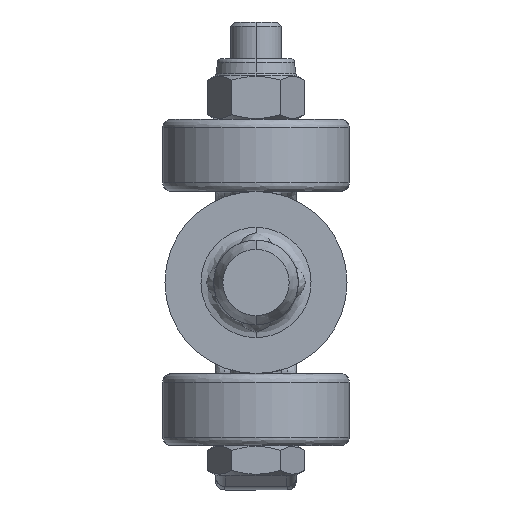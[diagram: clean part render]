
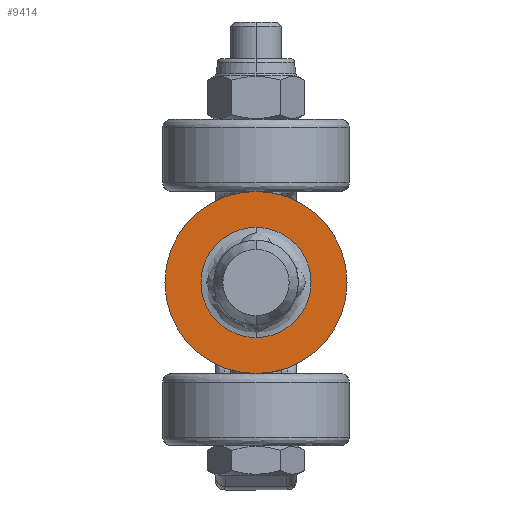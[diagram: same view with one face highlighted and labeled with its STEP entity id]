
A CAD part, front view. The second image highlights one B-rep face of the part: STEP entity #9414.
In plain terms, the highlighted planar face has unit normal (0, -1, 0) as drawn and (-1, 0, 0) by its records, which use the part's own axes.
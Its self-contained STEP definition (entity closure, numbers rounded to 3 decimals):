
#259 = CARTESIAN_POINT ( 'NONE',  ( 0., 13., -6.5 ) ) ;
#374 = CARTESIAN_POINT ( 'NONE',  ( 0., 6.5, 0. ) ) ;
#848 = ORIENTED_EDGE ( 'NONE', *, *, #8034, .F. ) ;
#878 = CARTESIAN_POINT ( 'NONE',  ( 0., 0., 0. ) ) ;
#1025 = VERTEX_POINT ( 'NONE', #5631 ) ;
#1217 = EDGE_CURVE ( 'NONE', #1025, #2808, #8123, .T. ) ;
#1331 = CARTESIAN_POINT ( 'NONE',  ( 0., 0., -10.75 ) ) ;
#2093 = AXIS2_PLACEMENT_3D ( 'NONE', #7466, #3688, #5922 ) ;
#2642 = VERTEX_POINT ( 'NONE', #3375 ) ;
#2661 = DIRECTION ( 'NONE',  ( 0., 0., -1. ) ) ;
#2694 = CARTESIAN_POINT ( 'NONE',  ( 0., 0., -6.5 ) ) ;
#2808 = VERTEX_POINT ( 'NONE', #1331 ) ;
#3251 = CARTESIAN_POINT ( 'NONE',  ( 0., 0., 6.5 ) ) ;
#3375 = CARTESIAN_POINT ( 'NONE',  ( 0., 0., 6.5 ) ) ;
#3419 = DIRECTION ( 'NONE',  ( 1., 0., 0. ) ) ;
#3688 = DIRECTION ( 'NONE',  ( 1., 0., 0. ) ) ;
#3818 = EDGE_CURVE ( 'NONE', #2808, #1025, #8278, .T. ) ;
#4621 = AXIS2_PLACEMENT_3D ( 'NONE', #878, #5368, #4724 ) ;
#4724 = DIRECTION ( 'NONE',  ( 0., 0., 1. ) ) ;
#4951 = ORIENTED_EDGE ( 'NONE', *, *, #9588, .F. ) ;
#5086 = AXIS2_PLACEMENT_3D ( 'NONE', #374, #3419, #2661 ) ;
#5103 = CARTESIAN_POINT ( 'NONE',  ( 0., 0., -6.5 ) ) ;
#5368 = DIRECTION ( 'NONE',  ( 1., 0., 0. ) ) ;
#5631 = CARTESIAN_POINT ( 'NONE',  ( 0., 0., 10.75 ) ) ;
#5922 = DIRECTION ( 'NONE',  ( 0., 0., 1. ) ) ;
#6543 = FACE_BOUND ( 'NONE', #7174, .T. ) ;
#6640 = CARTESIAN_POINT ( 'NONE',  ( 0., -13., 6.5 ) ) ;
#7174 = EDGE_LOOP ( 'NONE', ( #848, #4951 ) ) ;
#7466 = CARTESIAN_POINT ( 'NONE',  ( 0., 0., 0. ) ) ;
#8034 = EDGE_CURVE ( 'NONE', #8779, #2642, #9436, .T. ) ;
#8090 = ORIENTED_EDGE ( 'NONE', *, *, #3818, .F. ) ;
#8123 = CIRCLE ( 'NONE', #2093, 10.75 ) ;
#8278 = CIRCLE ( 'NONE', #4621, 10.75 ) ;
#8422 = CARTESIAN_POINT ( 'NONE',  ( 0., 0., -6.5 ) ) ;
#8477 = CARTESIAN_POINT ( 'NONE',  ( 0., 13., 6.5 ) ) ;
#8779 = VERTEX_POINT ( 'NONE', #2694 ) ;
#9308 =( BOUNDED_CURVE ( )  B_SPLINE_CURVE ( 3, ( #3251, #8477, #259, #8422 ),
 .UNSPECIFIED., .F., .T. ) 
 B_SPLINE_CURVE_WITH_KNOTS ( ( 4, 4 ),
 ( 0.5, 1. ),
 .UNSPECIFIED. ) 
 CURVE ( )  GEOMETRIC_REPRESENTATION_ITEM ( )  RATIONAL_B_SPLINE_CURVE ( ( 1., 0.333, 0.333, 1. ) ) 
 REPRESENTATION_ITEM ( '' )  );
#9414 = ADVANCED_FACE ( 'NONE', ( #6543, #9566 ), #9616, .F. ) ;
#9436 =( BOUNDED_CURVE ( )  B_SPLINE_CURVE ( 3, ( #5103, #9718, #6640, #9667 ),
 .UNSPECIFIED., .F., .F. ) 
 B_SPLINE_CURVE_WITH_KNOTS ( ( 4, 4 ),
 ( 0., 0.5 ),
 .UNSPECIFIED. ) 
 CURVE ( )  GEOMETRIC_REPRESENTATION_ITEM ( )  RATIONAL_B_SPLINE_CURVE ( ( 1., 0.333, 0.333, 1. ) ) 
 REPRESENTATION_ITEM ( '' )  );
#9523 = EDGE_LOOP ( 'NONE', ( #9725, #8090 ) ) ;
#9566 = FACE_OUTER_BOUND ( 'NONE', #9523, .T. ) ;
#9588 = EDGE_CURVE ( 'NONE', #2642, #8779, #9308, .T. ) ;
#9616 = PLANE ( 'NONE',  #5086 ) ;
#9667 = CARTESIAN_POINT ( 'NONE',  ( 0., 0., 6.5 ) ) ;
#9718 = CARTESIAN_POINT ( 'NONE',  ( 0., -13., -6.5 ) ) ;
#9725 = ORIENTED_EDGE ( 'NONE', *, *, #1217, .F. ) ;
